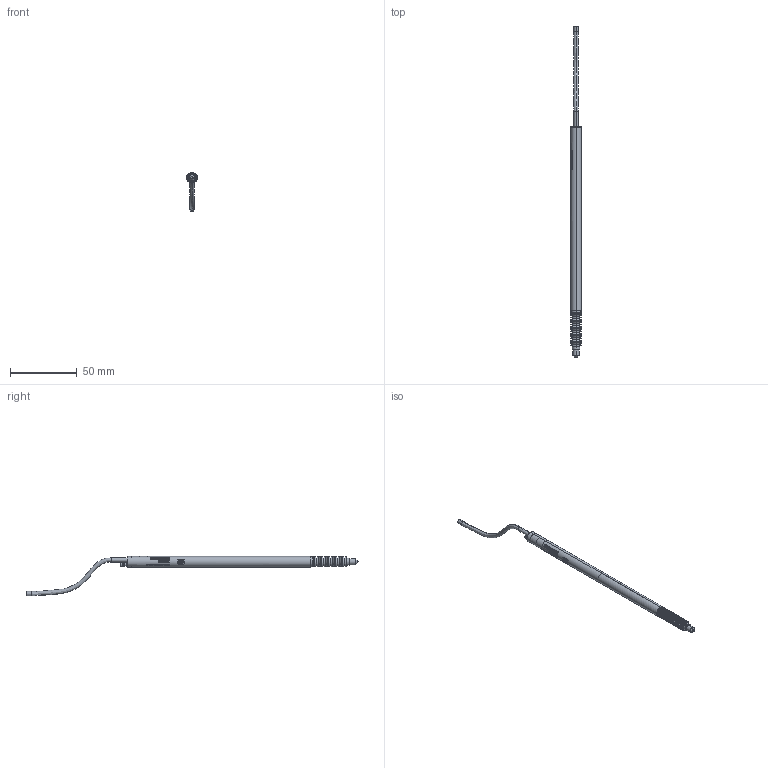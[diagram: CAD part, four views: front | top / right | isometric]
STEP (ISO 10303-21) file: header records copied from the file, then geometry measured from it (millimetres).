
FILE_DESCRIPTION((''),'2;1');
FILE_NAME('2613075','2013-04-11T',('11000205'),(''),'PRO/ENGINEER BY PARAMETRIC TECHNOLOGY CORPORATION, 2012480','PRO/ENGINEER BY PARAMETRIC TECHNOLOGY CORPORATION, 2012480','');
FILE_SCHEMA(('AUTOMOTIVE_DESIGN { 1 0 10303 214 1 1 1 1 }'));
Products named in the file (1): 2613075
Bounding box: 8 x 248.35 x 29.29 mm (x, y, z)
Volume: 3628.7 mm3; surface area: 10442.1 mm2
Topology: 2 solids, 6 shells, 1378 faces, 3532 edges, 2245 vertices
Faces by surface type: plane 863, cylinder 159, torus 146, cone 144, extrusion 35, bspline 29, sphere 2
Entity records: 57831 total; most frequent: CARTESIAN_POINT 15522, ORIENTED_EDGE 7052, DIRECTION 5872, EDGE_CURVE 3526, VERTEX_POINT 2245, AXIS2_PLACEMENT_3D 2184, VECTOR 1504, LINE 1469
